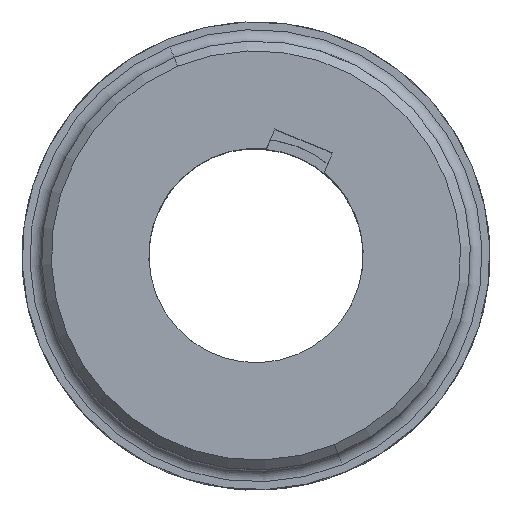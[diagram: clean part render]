
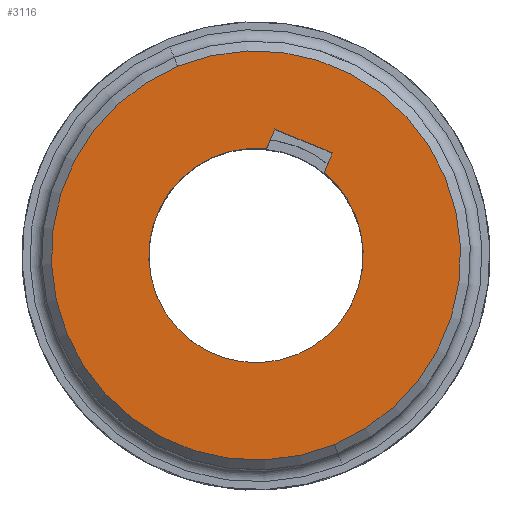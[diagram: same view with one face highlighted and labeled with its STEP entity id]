
A CAD part, top view. The second image highlights one B-rep face of the part: STEP entity #3116.
In plain terms, the highlighted planar face has unit normal (0, 0, 1) as drawn and (0, 0, -1) by its records, which use the part's own axes.
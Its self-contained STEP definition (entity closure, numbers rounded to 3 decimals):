
#106 = AXIS2_PLACEMENT_3D ( 'NONE', #4996, #5371, #3922 ) ;
#388 = DIRECTION ( 'NONE',  ( 0., 0., 1. ) ) ;
#496 = CIRCLE ( 'NONE', #3219, 27.5 ) ;
#593 = CARTESIAN_POINT ( 'NONE',  ( 0., -52.5, -65. ) ) ;
#720 = CARTESIAN_POINT ( 'NONE',  ( -16.829, 28.143, -65. ) ) ;
#830 = CIRCLE ( 'NONE', #4402, 52.5 ) ;
#842 = AXIS2_PLACEMENT_3D ( 'NONE', #5129, #3175, #5237 ) ;
#887 = DIRECTION ( 'NONE',  ( 0., 1., 0. ) ) ;
#957 = CIRCLE ( 'NONE', #2040, 27.5 ) ;
#990 = EDGE_CURVE ( 'NONE', #3476, #6549, #6414, .T. ) ;
#1003 = FACE_BOUND ( 'NONE', #6242, .T. ) ;
#1298 = CARTESIAN_POINT ( 'NONE',  ( -24.261, 12.948, -65. ) ) ;
#1308 = VERTEX_POINT ( 'NONE', #720 ) ;
#1424 = EDGE_CURVE ( 'NONE', #5701, #3083, #830, .T. ) ;
#1478 = CARTESIAN_POINT ( 'NONE',  ( -28.143, 16.829, -65. ) ) ;
#1497 = ORIENTED_EDGE ( 'NONE', *, *, #4164, .F. ) ;
#1544 = PLANE ( 'NONE',  #842 ) ;
#1754 = ORIENTED_EDGE ( 'NONE', *, *, #1424, .T. ) ;
#1813 = VERTEX_POINT ( 'NONE', #5498 ) ;
#1935 = CARTESIAN_POINT ( 'NONE',  ( 0., 0., -65. ) ) ;
#1957 = ORIENTED_EDGE ( 'NONE', *, *, #3058, .F. ) ;
#1972 = DIRECTION ( 'NONE',  ( -0.882, 0.471, 0. ) ) ;
#2013 = FACE_OUTER_BOUND ( 'NONE', #3521, .T. ) ;
#2040 = AXIS2_PLACEMENT_3D ( 'NONE', #4670, #6170, #2676 ) ;
#2056 = ORIENTED_EDGE ( 'NONE', *, *, #990, .F. ) ;
#2462 = DIRECTION ( 'NONE',  ( -0.882, 0.471, 0. ) ) ;
#2546 = VECTOR ( 'NONE', #6443, 1000. ) ;
#2676 = DIRECTION ( 'NONE',  ( -0.882, 0.471, 0. ) ) ;
#2798 = CIRCLE ( 'NONE', #3985, 27.5 ) ;
#2935 = ORIENTED_EDGE ( 'NONE', *, *, #6468, .T. ) ;
#3058 = EDGE_CURVE ( 'NONE', #6549, #1308, #3110, .T. ) ;
#3083 = VERTEX_POINT ( 'NONE', #593 ) ;
#3110 = LINE ( 'NONE', #1478, #6327 ) ;
#3116 = ADVANCED_FACE ( 'NONE', ( #1003, #2013 ), #1544, .T. ) ;
#3175 = DIRECTION ( 'NONE',  ( 0., 0., -1. ) ) ;
#3219 = AXIS2_PLACEMENT_3D ( 'NONE', #4055, #388, #2462 ) ;
#3400 = CARTESIAN_POINT ( 'NONE',  ( -24.261, 12.948, -65. ) ) ;
#3405 = EDGE_CURVE ( 'NONE', #3476, #5236, #2798, .T. ) ;
#3476 = VERTEX_POINT ( 'NONE', #3400 ) ;
#3521 = EDGE_LOOP ( 'NONE', ( #1754, #4352 ) ) ;
#3614 = DIRECTION ( 'NONE',  ( 0.707, 0.707, 0. ) ) ;
#3716 = CARTESIAN_POINT ( 'NONE',  ( 27.5, 0., -65. ) ) ;
#3922 = DIRECTION ( 'NONE',  ( 0., 1., 0. ) ) ;
#3985 = AXIS2_PLACEMENT_3D ( 'NONE', #6614, #4573, #1972 ) ;
#4055 = CARTESIAN_POINT ( 'NONE',  ( 0., 0., -65. ) ) ;
#4164 = EDGE_CURVE ( 'NONE', #1308, #1813, #5275, .T. ) ;
#4255 = CARTESIAN_POINT ( 'NONE',  ( -27.5, 0., -65. ) ) ;
#4352 = ORIENTED_EDGE ( 'NONE', *, *, #6630, .F. ) ;
#4402 = AXIS2_PLACEMENT_3D ( 'NONE', #1935, #6481, #887 ) ;
#4573 = DIRECTION ( 'NONE',  ( 0., 0., 1. ) ) ;
#4670 = CARTESIAN_POINT ( 'NONE',  ( 0., 0., -65. ) ) ;
#4703 = EDGE_CURVE ( 'NONE', #5236, #5639, #957, .T. ) ;
#4762 = CIRCLE ( 'NONE', #106, 52.5 ) ;
#4996 = CARTESIAN_POINT ( 'NONE',  ( 0., 0., -65. ) ) ;
#5129 = CARTESIAN_POINT ( 'NONE',  ( 0., 0., -65. ) ) ;
#5236 = VERTEX_POINT ( 'NONE', #4255 ) ;
#5237 = DIRECTION ( 'NONE',  ( 0., -1., 0. ) ) ;
#5275 = LINE ( 'NONE', #5378, #6341 ) ;
#5371 = DIRECTION ( 'NONE',  ( 0., 0., 1. ) ) ;
#5378 = CARTESIAN_POINT ( 'NONE',  ( -16.829, 28.143, -65. ) ) ;
#5498 = CARTESIAN_POINT ( 'NONE',  ( -12.948, 24.261, -65. ) ) ;
#5639 = VERTEX_POINT ( 'NONE', #3716 ) ;
#5658 = CARTESIAN_POINT ( 'NONE',  ( 0., 52.5, -65. ) ) ;
#5701 = VERTEX_POINT ( 'NONE', #5658 ) ;
#5819 = ORIENTED_EDGE ( 'NONE', *, *, #3405, .T. ) ;
#5893 = DIRECTION ( 'NONE',  ( 0.707, -0.707, 0. ) ) ;
#6113 = ORIENTED_EDGE ( 'NONE', *, *, #4703, .T. ) ;
#6170 = DIRECTION ( 'NONE',  ( 0., 0., 1. ) ) ;
#6242 = EDGE_LOOP ( 'NONE', ( #5819, #6113, #2935, #1497, #1957, #2056 ) ) ;
#6283 = CARTESIAN_POINT ( 'NONE',  ( -28.143, 16.829, -65. ) ) ;
#6327 = VECTOR ( 'NONE', #3614, 1000. ) ;
#6341 = VECTOR ( 'NONE', #5893, 1000. ) ;
#6414 = LINE ( 'NONE', #1298, #2546 ) ;
#6443 = DIRECTION ( 'NONE',  ( -0.707, 0.707, 0. ) ) ;
#6468 = EDGE_CURVE ( 'NONE', #5639, #1813, #496, .T. ) ;
#6481 = DIRECTION ( 'NONE',  ( 0., 0., -1. ) ) ;
#6549 = VERTEX_POINT ( 'NONE', #6283 ) ;
#6614 = CARTESIAN_POINT ( 'NONE',  ( 0., 0., -65. ) ) ;
#6630 = EDGE_CURVE ( 'NONE', #5701, #3083, #4762, .T. ) ;
